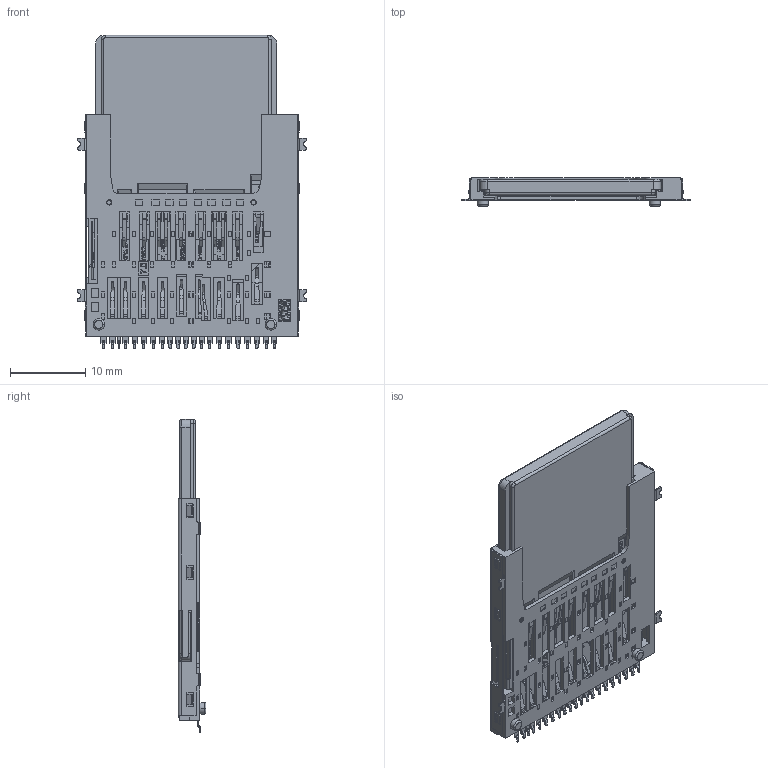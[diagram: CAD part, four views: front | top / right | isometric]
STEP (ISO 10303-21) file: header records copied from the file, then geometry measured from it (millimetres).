
FILE_DESCRIPTION((''),'2;1');
FILE_NAME('104I-TA02_C_1_ASM','2026-01-21T',('fros.liao'),(''),'CREO PARAMETRIC BY PTC INC, 2018360','CREO PARAMETRIC BY PTC INC, 2018360','');
FILE_SCHEMA(('CONFIG_CONTROL_DESIGN'));
Products named in the file (3): SD; PUSHPUSH; 104I-TA02_C_1_ASM
Assembly tree (2 placements, depth 2):
  104I-TA02_C_1_ASM
    SD
    PUSHPUSH
Bounding box: 30.35 x 3.71 x 41.5 mm (x, y, z)
Volume: 2057.3 mm3; surface area: 5355.1 mm2
Topology: 2 solids, 2 shells, 5637 faces, 15555 edges, 10153 vertices
Faces by surface type: plane 4903, cylinder 610, bspline 77, sphere 20, torus 15, extrusion 8, cone 3, revolution 1
Entity records: 185430 total; most frequent: CARTESIAN_POINT 42014, ORIENTED_EDGE 31054, DIRECTION 27188, EDGE_CURVE 15527, VECTOR 14013, LINE 14005, VERTEX_POINT 10153, AXIS2_PLACEMENT_3D 6587
